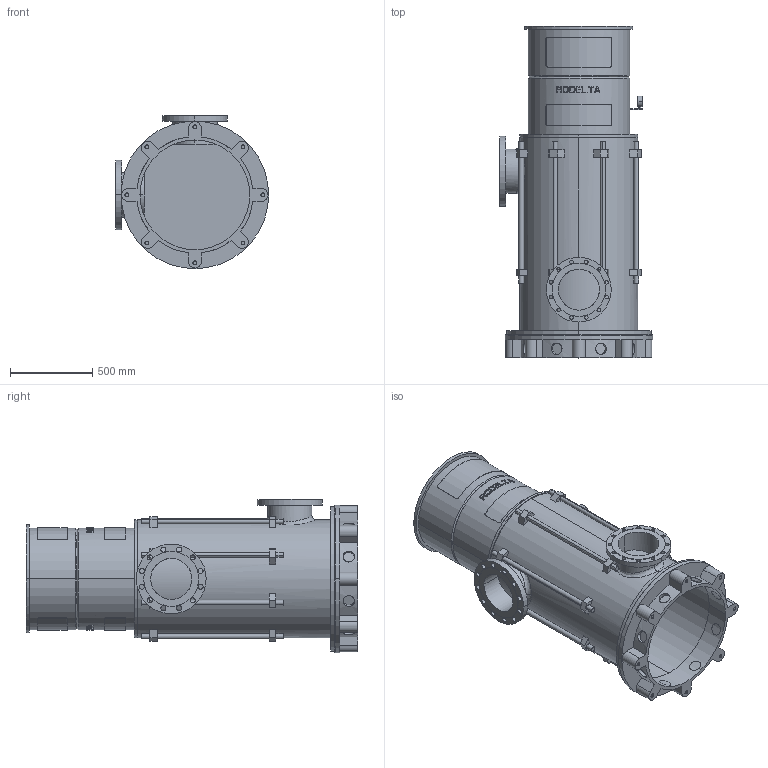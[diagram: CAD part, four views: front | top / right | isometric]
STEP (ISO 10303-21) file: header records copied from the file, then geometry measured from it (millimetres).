
FILE_DESCRIPTION((''),'2;1');
FILE_NAME('LS10_2TR_0GR_P_PN25','2025-10-20T13:30:09',('Lyritlocal'),(''),'CREO PARAMETRIC BY PTC INC, 2022014','CREO PARAMETRIC BY PTC INC, 2022014','');
FILE_SCHEMA(('CONFIG_CONTROL_DESIGN'));
Length unit declared in the file: millimetre
Products named in the file (1): LS10_2TR_0GR_P_PN25
Bounding box: 935 x 2023 x 935 mm (x, y, z)
Volume: 90798388.8 mm3; surface area: 12391794.2 mm2
Topology: 3 solids, 11 shells, 752 faces, 1936 edges, 1288 vertices
Faces by surface type: plane 462, cylinder 274, cone 12, bspline 4
Entity records: 24340 total; most frequent: CARTESIAN_POINT 5986, ORIENTED_EDGE 3840, DIRECTION 3664, EDGE_CURVE 1936, AXIS2_PLACEMENT_3D 1381, VERTEX_POINT 1288, EDGE_LOOP 922, VECTOR 902
